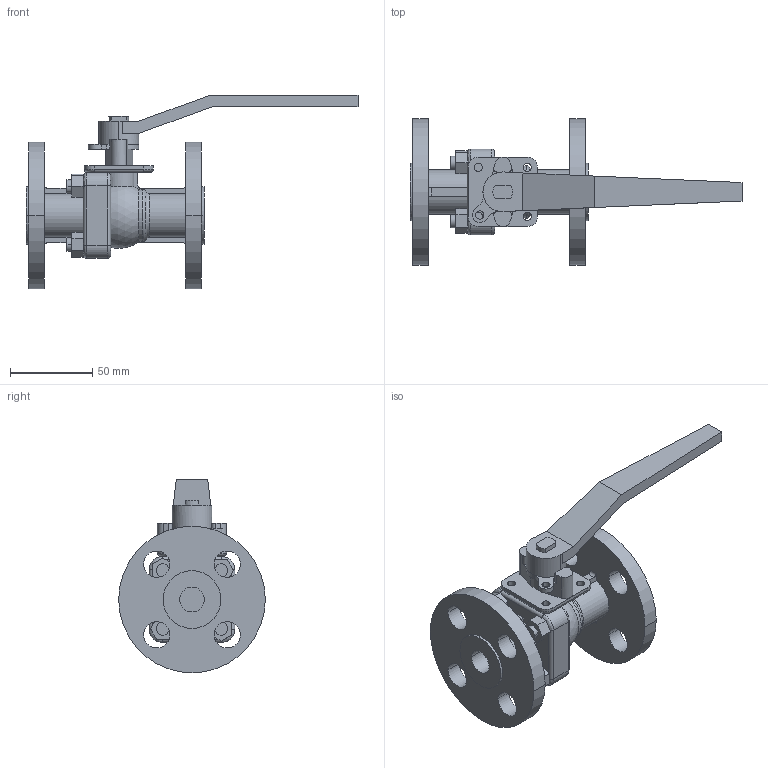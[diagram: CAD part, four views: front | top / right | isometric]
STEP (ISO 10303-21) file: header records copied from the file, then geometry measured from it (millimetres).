
FILE_DESCRIPTION( (''), '2;1');
FILE_NAME ('PC2091.16192.BLV-2SF ANSI150lb 15A_5673.stp','2026-05-28T09:05:44',(''),(''),'spGate 21.9.4 (****-****-****-****)','','');
FILE_SCHEMA (('AUTOMOTIVE_DESIGN'));
Length unit declared in the file: millimetre
Products named in the file (2): Assembly; BLV-2SFA 15A
Assembly tree (1 placements, depth 2):
  Assembly
    BLV-2SFA 15A
Bounding box: 201.3 x 88.9 x 117.45 mm (x, y, z)
Volume: 220652.6 mm3; surface area: 64796.2 mm2
Topology: 1 solids, 1 shells, 217 faces, 579 edges, 375 vertices
Faces by surface type: plane 100, cylinder 100, bspline 16, sphere 1
Entity records: 11983 total; most frequent: CARTESIAN_POINT 1927, ORIENTED_EDGE 1158, DIRECTION 1140, COLOUR_RGB 797, PRESENTATION_STYLE_ASSIGNMENT 797, STYLED_ITEM 797, EDGE_CURVE 579, DRAUGHTING_PRE_DEFINED_CURVE_FONT 579
